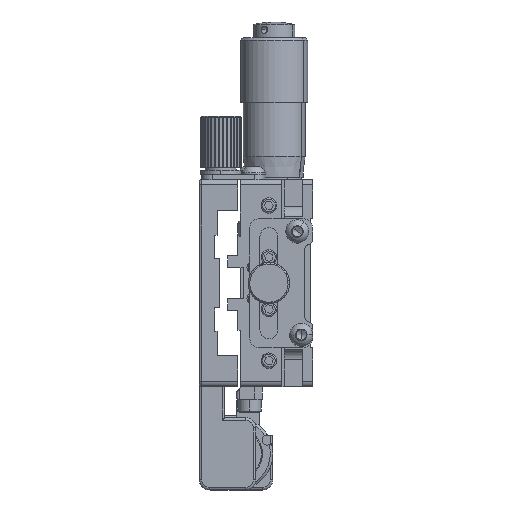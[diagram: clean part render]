
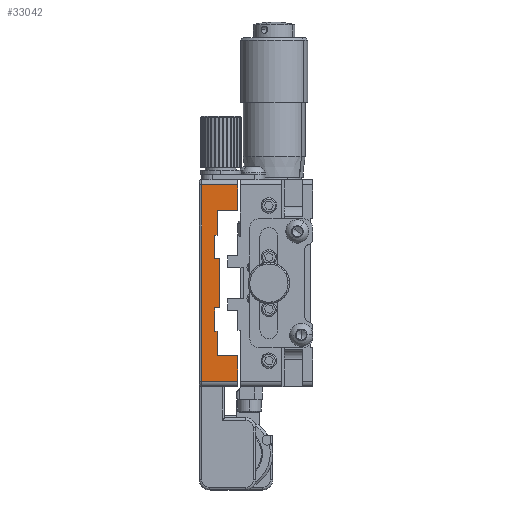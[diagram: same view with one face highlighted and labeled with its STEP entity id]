
A CAD part, left-side view. The second image highlights one B-rep face of the part: STEP entity #33042.
In plain terms, the highlighted planar face has unit normal (-1, 0, 0).
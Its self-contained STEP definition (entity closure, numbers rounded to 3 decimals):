
#1102 = CARTESIAN_POINT ( 'NONE',  ( -304.169, 13.047, 37.471 ) ) ;
#1946 = DIRECTION ( 'NONE',  ( 0., 0., -1. ) ) ;
#2352 = VERTEX_POINT ( 'NONE', #22609 ) ;
#2689 = ORIENTED_EDGE ( 'NONE', *, *, #40734, .F. ) ;
#3227 = VECTOR ( 'NONE', #26691, 1000. ) ;
#4393 = ORIENTED_EDGE ( 'NONE', *, *, #14371, .T. ) ;
#4561 = DIRECTION ( 'NONE',  ( 0., 0., -1. ) ) ;
#5090 = LINE ( 'NONE', #21889, #48253 ) ;
#6320 = CARTESIAN_POINT ( 'NONE',  ( -304.169, 15.547, 9.171 ) ) ;
#7182 = DIRECTION ( 'NONE',  ( 0., 0., -1. ) ) ;
#7538 = LINE ( 'NONE', #24344, #36260 ) ;
#7548 = DIRECTION ( 'NONE',  ( 0., 1., 0. ) ) ;
#7893 = CARTESIAN_POINT ( 'NONE',  ( -304.169, 8.547, 47.171 ) ) ;
#8218 = DIRECTION ( 'NONE',  ( 0., 0., -1. ) ) ;
#8387 = EDGE_CURVE ( 'NONE', #22013, #52090, #10708, .T. ) ;
#9205 = DIRECTION ( 'NONE',  ( 0., -1., 0. ) ) ;
#9226 = CARTESIAN_POINT ( 'NONE',  ( -304.169, 12.047, 23.371 ) ) ;
#9885 = CARTESIAN_POINT ( 'NONE',  ( -304.169, 12.047, 37.471 ) ) ;
#10480 = EDGE_CURVE ( 'NONE', #51542, #37156, #30119, .T. ) ;
#10708 = LINE ( 'NONE', #27501, #45022 ) ;
#11337 = CARTESIAN_POINT ( 'NONE',  ( -304.169, 12.547, 14.171 ) ) ;
#12727 = LINE ( 'NONE', #29501, #53217 ) ;
#13074 = DIRECTION ( 'NONE',  ( 0., 0., 1. ) ) ;
#13332 = ORIENTED_EDGE ( 'NONE', *, *, #8387, .F. ) ;
#14368 = DIRECTION ( 'NONE',  ( 0., 1., 0. ) ) ;
#14371 = EDGE_CURVE ( 'NONE', #31627, #39210, #7538, .T. ) ;
#14670 = CARTESIAN_POINT ( 'NONE',  ( -304.169, 16.047, 48.171 ) ) ;
#15479 = CARTESIAN_POINT ( 'NONE',  ( -304.169, 12.547, 42.171 ) ) ;
#15550 = EDGE_CURVE ( 'NONE', #23841, #45460, #28485, .T. ) ;
#15796 = DIRECTION ( 'NONE',  ( 0., -1., 0. ) ) ;
#15865 = VERTEX_POINT ( 'NONE', #15479 ) ;
#15917 = ORIENTED_EDGE ( 'NONE', *, *, #23405, .F. ) ;
#16168 = LINE ( 'NONE', #32956, #45400 ) ;
#16477 = VECTOR ( 'NONE', #7182, 1000. ) ;
#16806 = ORIENTED_EDGE ( 'NONE', *, *, #18295, .T. ) ;
#17388 = LINE ( 'NONE', #34173, #20181 ) ;
#18207 = CARTESIAN_POINT ( 'NONE',  ( -304.169, 12.547, 37.471 ) ) ;
#18295 = EDGE_CURVE ( 'NONE', #39210, #52090, #33992, .T. ) ;
#20181 = VECTOR ( 'NONE', #50992, 1000. ) ;
#21889 = CARTESIAN_POINT ( 'NONE',  ( -304.169, 8.547, 41.971 ) ) ;
#22013 = VERTEX_POINT ( 'NONE', #31357 ) ;
#22290 = VECTOR ( 'NONE', #14368, 1000. ) ;
#22609 = CARTESIAN_POINT ( 'NONE',  ( -304.169, 13.047, 32.971 ) ) ;
#22879 = LINE ( 'NONE', #39678, #38681 ) ;
#23021 = CARTESIAN_POINT ( 'NONE',  ( -304.169, 8.547, 9.171 ) ) ;
#23405 = EDGE_CURVE ( 'NONE', #27627, #2352, #29151, .T. ) ;
#23836 = EDGE_CURVE ( 'NONE', #31920, #15865, #16168, .T. ) ;
#23841 = VERTEX_POINT ( 'NONE', #7893 ) ;
#24078 = CARTESIAN_POINT ( 'NONE',  ( -304.169, 12.047, 32.971 ) ) ;
#24120 = ORIENTED_EDGE ( 'NONE', *, *, #33488, .F. ) ;
#24344 = CARTESIAN_POINT ( 'NONE',  ( -304.169, 12.547, 14.171 ) ) ;
#24514 = VECTOR ( 'NONE', #7548, 1000. ) ;
#25404 = CARTESIAN_POINT ( 'NONE',  ( -304.169, 13.047, 23.371 ) ) ;
#25461 = EDGE_CURVE ( 'NONE', #45460, #51542, #25489, .T. ) ;
#25489 = LINE ( 'NONE', #42312, #28699 ) ;
#25522 = VERTEX_POINT ( 'NONE', #9226 ) ;
#26053 = EDGE_LOOP ( 'NONE', ( #41807, #31333, #26182, #49109, #35338, #37109, #31964, #4393, #16806, #13332, #2689, #32076, #24120, #51683, #15917, #36088 ) ) ;
#26182 = ORIENTED_EDGE ( 'NONE', *, *, #42842, .F. ) ;
#26691 = DIRECTION ( 'NONE',  ( 0., 1., 0. ) ) ;
#27501 = CARTESIAN_POINT ( 'NONE',  ( -304.169, 12.047, 18.871 ) ) ;
#27627 = VERTEX_POINT ( 'NONE', #1102 ) ;
#28119 = LINE ( 'NONE', #44928, #16477 ) ;
#28485 = LINE ( 'NONE', #45290, #24514 ) ;
#28699 = VECTOR ( 'NONE', #4561, 1000. ) ;
#29151 = LINE ( 'NONE', #45955, #31064 ) ;
#29501 = CARTESIAN_POINT ( 'NONE',  ( -304.169, 8.547, 14.371 ) ) ;
#30119 = LINE ( 'NONE', #46947, #31576 ) ;
#30589 = VECTOR ( 'NONE', #15796, 1000. ) ;
#31064 = VECTOR ( 'NONE', #8218, 1000. ) ;
#31333 = ORIENTED_EDGE ( 'NONE', *, *, #40286, .T. ) ;
#31357 = CARTESIAN_POINT ( 'NONE',  ( -304.169, 13.047, 18.871 ) ) ;
#31456 = DIRECTION ( 'NONE',  ( 1., 0., 0. ) ) ;
#31576 = VECTOR ( 'NONE', #9205, 1000. ) ;
#31627 = VERTEX_POINT ( 'NONE', #52952 ) ;
#31836 = EDGE_CURVE ( 'NONE', #2352, #43090, #17388, .T. ) ;
#31920 = VERTEX_POINT ( 'NONE', #18207 ) ;
#31964 = ORIENTED_EDGE ( 'NONE', *, *, #37833, .F. ) ;
#32076 = ORIENTED_EDGE ( 'NONE', *, *, #45559, .F. ) ;
#32564 = VERTEX_POINT ( 'NONE', #39541 ) ;
#32956 = CARTESIAN_POINT ( 'NONE',  ( -304.169, 12.547, 37.471 ) ) ;
#33042 = ADVANCED_FACE ( 'NONE', ( #35594 ), #52410, .F. ) ;
#33488 = EDGE_CURVE ( 'NONE', #43090, #25522, #22879, .T. ) ;
#33992 = LINE ( 'NONE', #50820, #38101 ) ;
#34173 = CARTESIAN_POINT ( 'NONE',  ( -304.169, 12.547, 32.971 ) ) ;
#35292 = LINE ( 'NONE', #52110, #22290 ) ;
#35338 = ORIENTED_EDGE ( 'NONE', *, *, #25461, .T. ) ;
#35594 = FACE_OUTER_BOUND ( 'NONE', #26053, .T. ) ;
#36088 = ORIENTED_EDGE ( 'NONE', *, *, #41022, .F. ) ;
#36260 = VECTOR ( 'NONE', #41167, 1000. ) ;
#36738 = LINE ( 'NONE', #53535, #30589 ) ;
#37109 = ORIENTED_EDGE ( 'NONE', *, *, #10480, .T. ) ;
#37156 = VERTEX_POINT ( 'NONE', #23021 ) ;
#37833 = EDGE_CURVE ( 'NONE', #31627, #37156, #12727, .T. ) ;
#38101 = VECTOR ( 'NONE', #13074, 1000. ) ;
#38681 = VECTOR ( 'NONE', #1946, 1000. ) ;
#38700 = DIRECTION ( 'NONE',  ( 0., 0., -1. ) ) ;
#39210 = VERTEX_POINT ( 'NONE', #11337 ) ;
#39541 = CARTESIAN_POINT ( 'NONE',  ( -304.169, 8.547, 42.171 ) ) ;
#39678 = CARTESIAN_POINT ( 'NONE',  ( -304.169, 12.047, 32.971 ) ) ;
#40159 = VERTEX_POINT ( 'NONE', #25404 ) ;
#40286 = EDGE_CURVE ( 'NONE', #15865, #32564, #36738, .T. ) ;
#40734 = EDGE_CURVE ( 'NONE', #40159, #22013, #28119, .T. ) ;
#41022 = EDGE_CURVE ( 'NONE', #31920, #27627, #47637, .T. ) ;
#41167 = DIRECTION ( 'NONE',  ( 0., 1., 0. ) ) ;
#41807 = ORIENTED_EDGE ( 'NONE', *, *, #23836, .T. ) ;
#42312 = CARTESIAN_POINT ( 'NONE',  ( -304.169, 15.547, 48.171 ) ) ;
#42842 = EDGE_CURVE ( 'NONE', #23841, #32564, #5090, .T. ) ;
#43090 = VERTEX_POINT ( 'NONE', #24078 ) ;
#43177 = AXIS2_PLACEMENT_3D ( 'NONE', #14670, #31456, #48279 ) ;
#44322 = DIRECTION ( 'NONE',  ( 0., -1., 0. ) ) ;
#44928 = CARTESIAN_POINT ( 'NONE',  ( -304.169, 13.047, 18.871 ) ) ;
#45022 = VECTOR ( 'NONE', #44322, 1000. ) ;
#45290 = CARTESIAN_POINT ( 'NONE',  ( -304.169, 16.047, 47.171 ) ) ;
#45400 = VECTOR ( 'NONE', #49784, 1000. ) ;
#45460 = VERTEX_POINT ( 'NONE', #46872 ) ;
#45559 = EDGE_CURVE ( 'NONE', #25522, #40159, #35292, .T. ) ;
#45955 = CARTESIAN_POINT ( 'NONE',  ( -304.169, 13.047, 37.471 ) ) ;
#46333 = DIRECTION ( 'NONE',  ( 0., 0., -1. ) ) ;
#46872 = CARTESIAN_POINT ( 'NONE',  ( -304.169, 15.547, 47.171 ) ) ;
#46947 = CARTESIAN_POINT ( 'NONE',  ( -304.169, 16.047, 9.171 ) ) ;
#47637 = LINE ( 'NONE', #9885, #3227 ) ;
#48140 = CARTESIAN_POINT ( 'NONE',  ( -304.169, 12.547, 18.871 ) ) ;
#48253 = VECTOR ( 'NONE', #38700, 1000. ) ;
#48279 = DIRECTION ( 'NONE',  ( 0., 1., 0. ) ) ;
#49109 = ORIENTED_EDGE ( 'NONE', *, *, #15550, .T. ) ;
#49784 = DIRECTION ( 'NONE',  ( 0., 0., 1. ) ) ;
#50820 = CARTESIAN_POINT ( 'NONE',  ( -304.169, 12.547, 18.871 ) ) ;
#50992 = DIRECTION ( 'NONE',  ( 0., -1., 0. ) ) ;
#51542 = VERTEX_POINT ( 'NONE', #6320 ) ;
#51683 = ORIENTED_EDGE ( 'NONE', *, *, #31836, .F. ) ;
#52090 = VERTEX_POINT ( 'NONE', #48140 ) ;
#52110 = CARTESIAN_POINT ( 'NONE',  ( -304.169, 12.547, 23.371 ) ) ;
#52410 = PLANE ( 'NONE',  #43177 ) ;
#52952 = CARTESIAN_POINT ( 'NONE',  ( -304.169, 8.547, 14.171 ) ) ;
#53217 = VECTOR ( 'NONE', #46333, 1000. ) ;
#53535 = CARTESIAN_POINT ( 'NONE',  ( -304.169, 12.547, 42.171 ) ) ;
